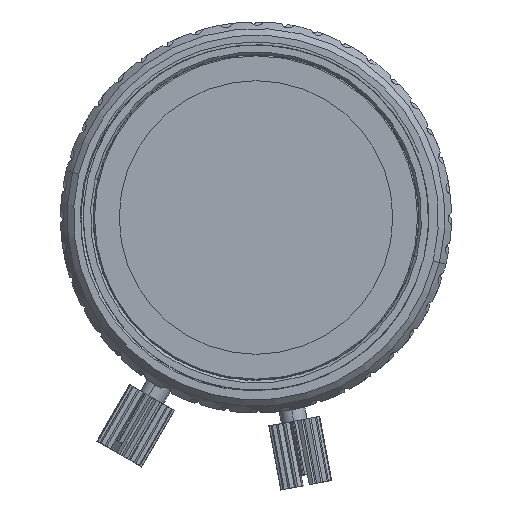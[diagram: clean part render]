
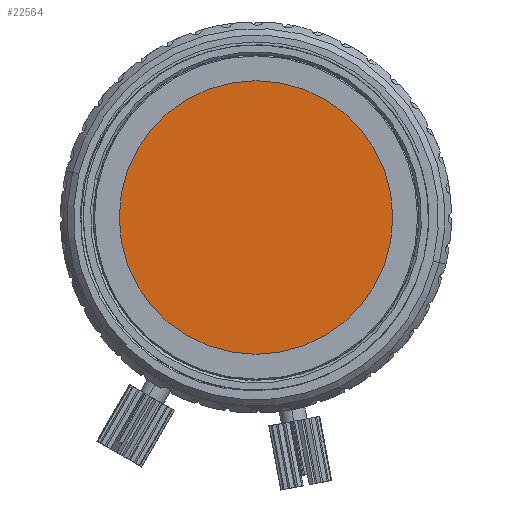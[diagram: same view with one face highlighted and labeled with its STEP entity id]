
A CAD part, left-side view. The second image highlights one B-rep face of the part: STEP entity #22564.
In plain terms, the highlighted planar face has unit normal (-1, 0, 0).
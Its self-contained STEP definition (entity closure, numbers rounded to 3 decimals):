
#22346=CARTESIAN_POINT('',(-51.768,0.,0.));
#22347=DIRECTION('',(-1.,0.,0.));
#22348=DIRECTION('',(0.,0.,1.));
#22349=AXIS2_PLACEMENT_3D('',#22346,#22347,#22348);
#22351=CARTESIAN_POINT('',(-51.768,0.,0.));
#22352=DIRECTION('',(-1.,0.,0.));
#22353=DIRECTION('',(0.,0.,-1.));
#22354=AXIS2_PLACEMENT_3D('',#22351,#22352,#22353);
#22402=CARTESIAN_POINT('',(-51.768,0.,
10.496));
#22403=CARTESIAN_POINT('',(-51.768,0.,
-10.496));
#22404=VERTEX_POINT('',#22402);
#22405=VERTEX_POINT('',#22403);
#22554=CARTESIAN_POINT('',(-51.768,0.,0.));
#22555=DIRECTION('',(1.,0.,0.));
#22556=DIRECTION('',(0.,0.,1.));
#22557=AXIS2_PLACEMENT_3D('',#22554,#22555,#22556);
#22558=PLANE('',#22557);
#22559=ORIENTED_EDGE('',*,*,#22544,.F.);
#22561=ORIENTED_EDGE('',*,*,#22560,.F.);
#22562=EDGE_LOOP('',(#22559,#22561));
#22563=FACE_OUTER_BOUND('',#22562,.F.);
#22564=ADVANCED_FACE('',(#22563),#22558,.F.);
#22350=CIRCLE('',#22349,10.496);
#22355=CIRCLE('',#22354,10.496);
#22544=EDGE_CURVE('',#22404,#22405,#22350,.T.);
#22560=EDGE_CURVE('',#22405,#22404,#22355,.T.);
